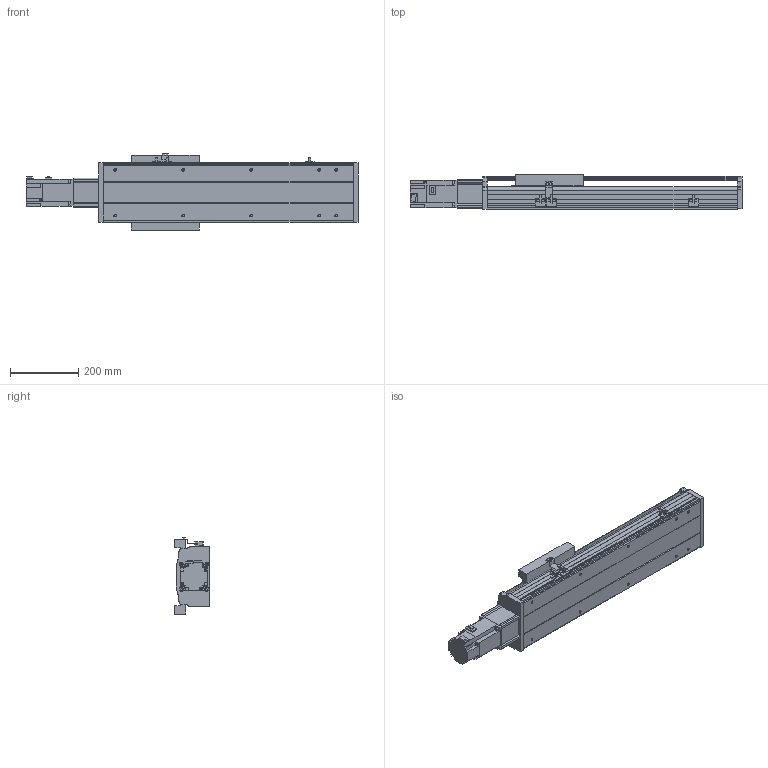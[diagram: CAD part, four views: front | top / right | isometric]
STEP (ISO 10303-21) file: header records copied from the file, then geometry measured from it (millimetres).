
FILE_DESCRIPTION( ( 'STEP AP214' ), '1' );
FILE_NAME( 'x:/temp/worker_27/temp/exporttempdir_6708_405_TosbI/format_0/PSS200-L10-S400-BC-T75-C1-N(0).stp', '2022-06-06T02:33:56', ( 'License CC BY-ND 4.0' ), ( 'CADENAS' ), ' ', 'PARTsolutions', ' ' );
FILE_SCHEMA( ( 'AUTOMOTIVE_DESIGN { 1 0 10303 214 1 1 1 1 }' ) );
Length unit declared in the file: millimetre
Products named in the file (8): PSS200-L10-S400-BC-T75-C1-N(0); _PSS200-S400-BC-C1-N_body; _PSS200-N_Q; _PSS200-BC-C1-N_sl; _PSS200-N_sensor; _PSS200BC-N_h; _T75-p1; _PSS200-S400-BC-N_S
Assembly tree (9 placements, depth 2):
  PSS200-L10-S400-BC-T75-C1-N(0)
    _PSS200-S400-BC-C1-N_body
    _PSS200-N_Q
    _PSS200-BC-C1-N_sl
    _PSS200-N_sensor  x3
    _PSS200BC-N_h
    _T75-p1
    _PSS200-S400-BC-N_S
Bounding box: 976.3 x 101.5 x 223.86 mm (x, y, z)
Volume: 5925778.8 mm3; surface area: 1379184.7 mm2
Topology: 9 solids, 9 shells, 573 faces, 1531 edges, 1016 vertices
Faces by surface type: plane 439, cylinder 116, cone 18
Full cylindrical faces by diameter (mm): 4 x2, 4.5 x4, 6 x11, 6.647 x14, 8 x8, 10 x6, 25 x1, 67 x1, 70 x1
Entity records: 20091 total; most frequent: CARTESIAN_POINT 2808, DIRECTION 2621, ORIENTED_EDGE 2618, EDGE_CURVE 1309, LINE 1051, VECTOR 1051, VERTEX_POINT 908, AXIS2_PLACEMENT_3D 785
